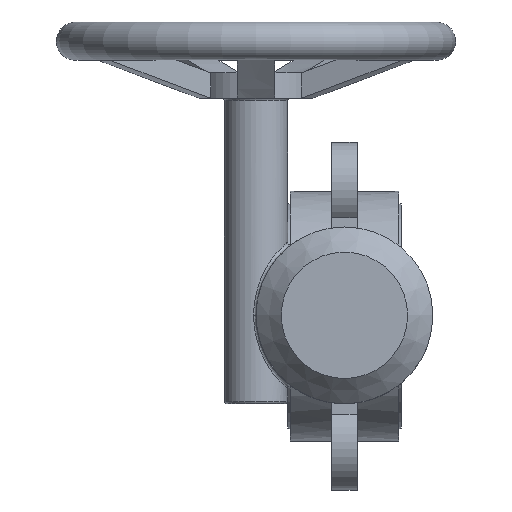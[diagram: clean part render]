
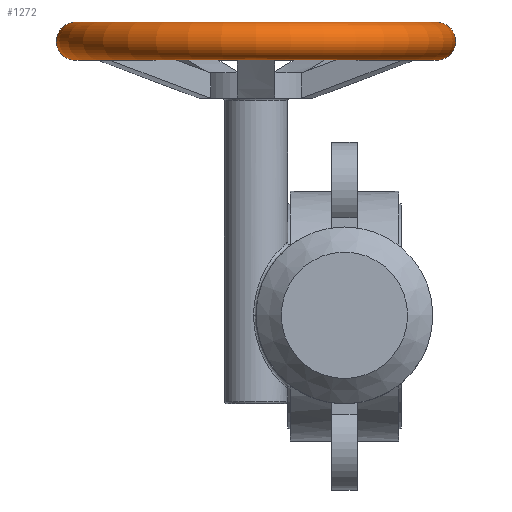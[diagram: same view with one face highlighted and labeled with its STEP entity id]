
A CAD part, top view. The second image highlights one B-rep face of the part: STEP entity #1272.
In plain terms, the highlighted toroidal (fillet/blend) face has major radius 71.5 mm and minor radius 7.5 mm.
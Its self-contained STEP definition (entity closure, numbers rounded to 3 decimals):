
#1272=ADVANCED_FACE('',(#2992,#2994),#2996,.T.);
#2992=FACE_OUTER_BOUND('',#2993,.T.);
#2993=EDGE_LOOP('',(#3612));
#2994=FACE_OUTER_BOUND('',#2995,.T.);
#2995=EDGE_LOOP('',(#3613));
#2996=TOROIDAL_SURFACE('',#2997,71.5,7.5);
#2997=AXIS2_PLACEMENT_3D('',#2998,#2999,#3000);
#2998=CARTESIAN_POINT('',(-35.,108.5,167.));
#2999=DIRECTION('',(0.,-1.,0.));
#3000=DIRECTION('',(0.,0.,1.));
#3612=ORIENTED_EDGE('',*,*,#3918,.T.);
#3613=ORIENTED_EDGE('',*,*,#3877,.F.);
#3877=EDGE_CURVE('',#4374,#4374,#4375,.T.);
#3918=EDGE_CURVE('',#4434,#4434,#4435,.T.);
#4374=VERTEX_POINT('',#6780);
#4375=CIRCLE('',#6781,71.5);
#4434=VERTEX_POINT('',#7017);
#4435=CIRCLE('',#7018,71.5);
#6780=CARTESIAN_POINT('',(-35.,101.,238.5));
#6781=AXIS2_PLACEMENT_3D('',#6782,#6783,#6784);
#6782=CARTESIAN_POINT('',(-35.,101.,167.));
#6783=DIRECTION('',(0.,-1.,0.));
#6784=DIRECTION('',(0.,0.,1.));
#7017=CARTESIAN_POINT('',(-35.,116.,238.5));
#7018=AXIS2_PLACEMENT_3D('',#7019,#7020,#7021);
#7019=CARTESIAN_POINT('',(-35.,116.,167.));
#7020=DIRECTION('',(0.,-1.,0.));
#7021=DIRECTION('',(0.,0.,1.));
